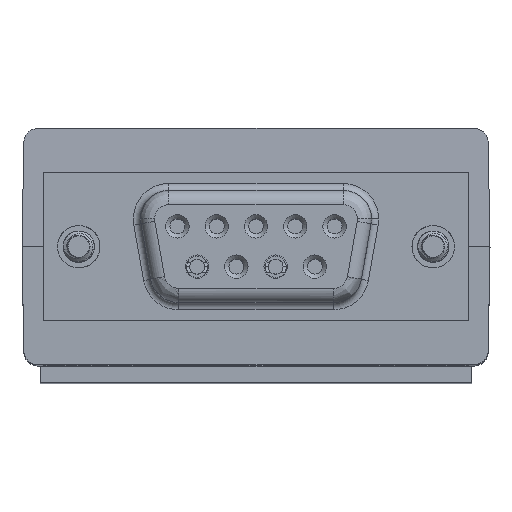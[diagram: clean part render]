
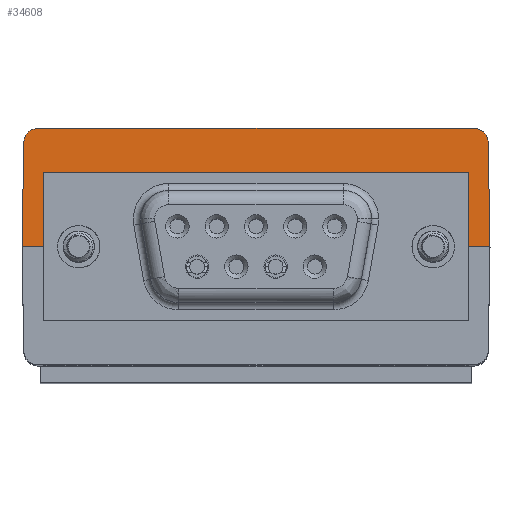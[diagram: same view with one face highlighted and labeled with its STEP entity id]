
A CAD part, top view. The second image highlights one B-rep face of the part: STEP entity #34608.
In plain terms, the highlighted planar face has unit normal (0, 0.018, 1).
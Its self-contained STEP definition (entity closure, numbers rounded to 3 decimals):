
#183=ELLIPSE('',#37087,1.,1.);
#184=ELLIPSE('',#37088,1.,1.);
#858=PLANE('',#37086);
#4107=FACE_OUTER_BOUND('',#6186,.T.);
#6186=EDGE_LOOP('',(#25626,#25627,#25628,#25629,#25630,#25631,#25632,#25633,
#25634,#25635));
#8613=LINE('',#62559,#11675);
#8622=LINE('',#62577,#11684);
#8623=LINE('',#62579,#11685);
#8624=LINE('',#62581,#11686);
#8625=LINE('',#62583,#11687);
#8626=LINE('',#62587,#11688);
#8627=LINE('',#62591,#11689);
#8628=LINE('',#62592,#11690);
#11675=VECTOR('',#42142,10.);
#11684=VECTOR('',#42155,10.);
#11685=VECTOR('',#42156,10.);
#11686=VECTOR('',#42157,10.);
#11687=VECTOR('',#42158,10.);
#11688=VECTOR('',#42161,10.);
#11689=VECTOR('',#42164,10.);
#11690=VECTOR('',#42165,10.);
#14999=VERTEX_POINT('',#62556);
#15000=VERTEX_POINT('',#62558);
#15007=VERTEX_POINT('',#62576);
#15008=VERTEX_POINT('',#62578);
#15009=VERTEX_POINT('',#62580);
#15010=VERTEX_POINT('',#62582);
#15011=VERTEX_POINT('',#62584);
#15012=VERTEX_POINT('',#62586);
#15013=VERTEX_POINT('',#62588);
#15014=VERTEX_POINT('',#62590);
#18952=EDGE_CURVE('',#15000,#14999,#8613,.T.);
#18961=EDGE_CURVE('',#15007,#15000,#8622,.T.);
#18962=EDGE_CURVE('',#14999,#15008,#8623,.T.);
#18963=EDGE_CURVE('',#15008,#15009,#8624,.T.);
#18964=EDGE_CURVE('',#15009,#15010,#8625,.T.);
#18965=EDGE_CURVE('',#15011,#15010,#183,.T.);
#18966=EDGE_CURVE('',#15011,#15012,#8626,.T.);
#18967=EDGE_CURVE('',#15013,#15012,#184,.T.);
#18968=EDGE_CURVE('',#15014,#15013,#8627,.T.);
#18969=EDGE_CURVE('',#15014,#15007,#8628,.T.);
#25626=ORIENTED_EDGE('',*,*,#18961,.T.);
#25627=ORIENTED_EDGE('',*,*,#18952,.T.);
#25628=ORIENTED_EDGE('',*,*,#18962,.T.);
#25629=ORIENTED_EDGE('',*,*,#18963,.T.);
#25630=ORIENTED_EDGE('',*,*,#18964,.T.);
#25631=ORIENTED_EDGE('',*,*,#18965,.F.);
#25632=ORIENTED_EDGE('',*,*,#18966,.T.);
#25633=ORIENTED_EDGE('',*,*,#18967,.F.);
#25634=ORIENTED_EDGE('',*,*,#18968,.F.);
#25635=ORIENTED_EDGE('',*,*,#18969,.T.);
#34608=ADVANCED_FACE('',(#4107),#858,.T.);
#37086=AXIS2_PLACEMENT_3D('',#62575,#42153,#42154);
#37087=AXIS2_PLACEMENT_3D('',#62585,#42159,#42160);
#37088=AXIS2_PLACEMENT_3D('',#62589,#42162,#42163);
#42142=DIRECTION('',(1.,0.,0.));
#42153=DIRECTION('center_axis',(0.,0.017,1.));
#42154=DIRECTION('ref_axis',(1.,0.,0.));
#42155=DIRECTION('',(0.,1.,-0.017));
#42156=DIRECTION('',(0.,-1.,0.017));
#42157=DIRECTION('',(1.,0.,0.));
#42158=DIRECTION('',(-0.017,1.,-0.017));
#42159=DIRECTION('center_axis',(0.,-0.017,-1.));
#42160=DIRECTION('ref_axis',(0.,1.,-0.017));
#42161=DIRECTION('',(-1.,0.,0.));
#42162=DIRECTION('center_axis',(0.,-0.017,-1.));
#42163=DIRECTION('ref_axis',(0.,1.,-0.017));
#42164=DIRECTION('',(0.017,1.,-0.017));
#42165=DIRECTION('',(1.,0.,0.));
#62556=CARTESIAN_POINT('',(15.,5.23,-0.091));
#62558=CARTESIAN_POINT('',(-15.,5.23,-0.091));
#62559=CARTESIAN_POINT('',(0.75,5.23,-0.091));
#62575=CARTESIAN_POINT('Origin',(16.5,0.,0.));
#62576=CARTESIAN_POINT('',(-15.,0.,0.));
#62577=CARTESIAN_POINT('',(-15.,0.,0.));
#62578=CARTESIAN_POINT('',(15.,0.,0.));
#62579=CARTESIAN_POINT('',(15.,2.614,-0.046));
#62580=CARTESIAN_POINT('',(16.5,0.,0.));
#62581=CARTESIAN_POINT('',(-16.5,0.,0.));
#62582=CARTESIAN_POINT('',(16.372,7.347,-0.128));
#62583=CARTESIAN_POINT('',(16.499,0.07,-0.001));
#62584=CARTESIAN_POINT('',(15.372,8.33,-0.145));
#62585=CARTESIAN_POINT('Origin',(15.372,7.33,-0.128));
#62586=CARTESIAN_POINT('',(-15.372,8.33,-0.145));
#62587=CARTESIAN_POINT('',(-16.5,8.33,-0.145));
#62588=CARTESIAN_POINT('',(-16.372,7.347,-0.128));
#62589=CARTESIAN_POINT('Origin',(-15.372,7.33,-0.128));
#62590=CARTESIAN_POINT('',(-16.5,0.,0.));
#62591=CARTESIAN_POINT('',(-16.495,0.288,-0.005));
#62592=CARTESIAN_POINT('',(-16.5,0.,0.));
